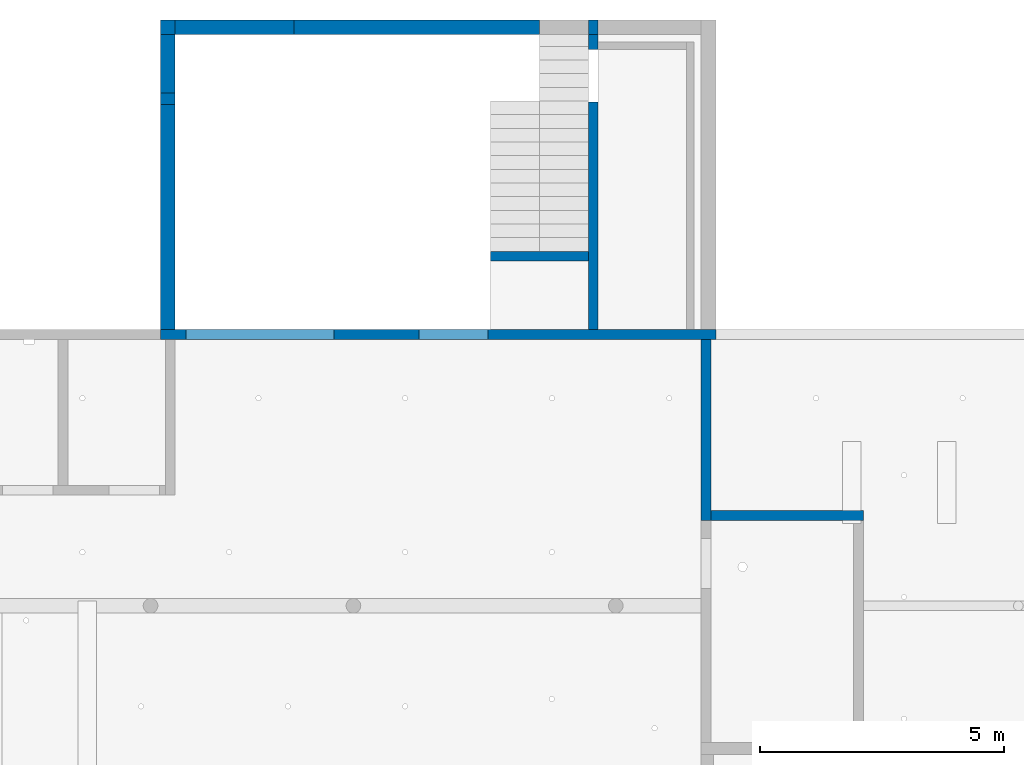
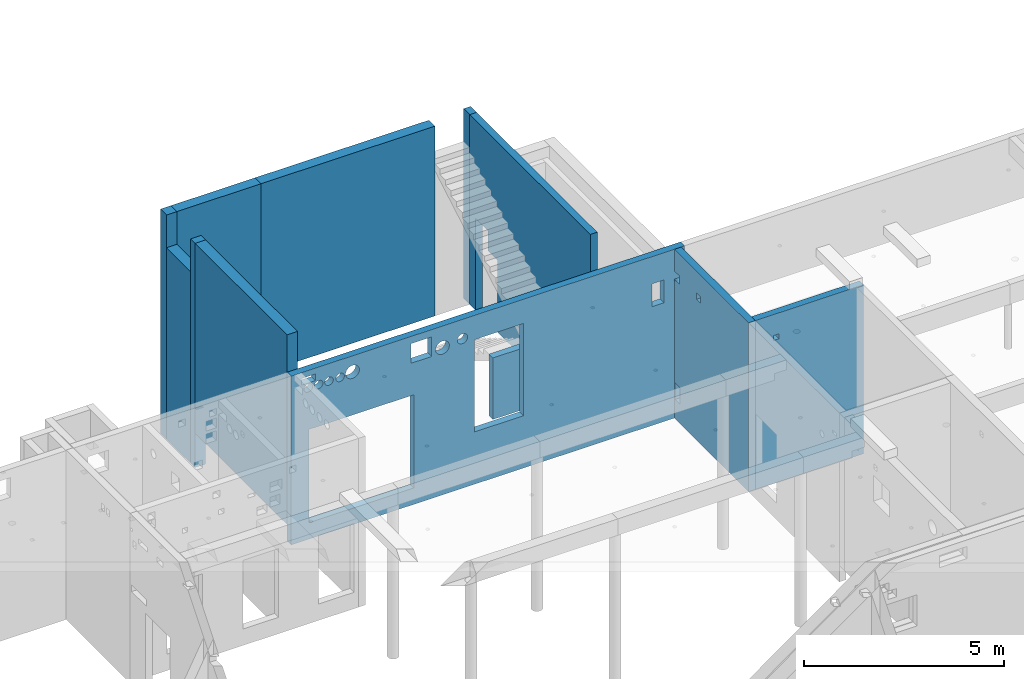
# One storey, part 26 of 28: 10 walls, 19 openings.
"""IFC2X3 building model written with IfcOpenShell, lengths in metres."""

from ifc_helpers import new_model, entity, si_unit, converted_unit, direction, frame, frame_2d, origin, origin_with_axes, place, context, subcontext, project, spatial, polyline, rectangle, outline, extrude, material, layer, layer_set, layer_usage, element, save


model = new_model("IFC2X3")

# Units and contexts
model_context = context("Model", 3, precision=1e-05, world=origin(), true_north=direction((-0.407059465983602, -0.913401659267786)))
body_context = subcontext(model_context, "Body", "Model", "MODEL_VIEW")
ifc_project = project(units=[si_unit("LENGTHUNIT", "METRE"), si_unit("AREAUNIT", "SQUARE_METRE"), si_unit("VOLUMEUNIT", "CUBIC_METRE"), si_unit("MASSUNIT", "GRAM", prefix="KILO"), converted_unit("PLANEANGLEUNIT", "DEGREE", entity("IfcPlaneAngleMeasure", 0.0174532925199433), si_unit("PLANEANGLEUNIT", "RADIAN"), dimensions=[0, 0, 0, 0, 0, 0, 0])], contexts=[model_context])

# Site, buildings, storey
site_placement = place(None, origin())
site = spatial("IfcSite", under=ifc_project, at=site_placement, Name="Site", CompositionType="ELEMENT")
building_1_placement = place(site_placement, origin())
building_1 = spatial("IfcBuilding", under=site, at=building_1_placement, Name="Site", CompositionType="COMPLEX")
building_2_placement = place(building_1_placement, origin())
building_2 = spatial("IfcBuilding", under=building_1, at=building_2_placement, Name="Bâtiments", CompositionType="ELEMENT")
storey_placement = place(building_2_placement, frame((0.0, 0.0, -5.3)))
storey = spatial("IfcBuildingStorey", under=building_2, at=storey_placement, Name="SOUS-SOL", CompositionType="ELEMENT", Elevation=-5.3)

# Wall
ifc_material_1 = material(Name="Béton")
ifc_layer_1 = layer(ifc_material_1, 0.3)
ifc_layer_set_1 = layer_set([ifc_layer_1])
ifc_layer_usage_1 = layer_usage(ifc_layer_set_1, "AXIS2", "POSITIVE", -0.25)
wall_1_placement = place(storey_placement, frame((36.8980907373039, 15.7502841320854, -0.55), z_axis=(0.0, 0.0, 1.0), x_axis=(-1.0, 0.0, 0.0)))
element("IfcWallStandardCase", 1, at=wall_1_placement, inside=storey, material=ifc_layer_usage_1, context=body_context, shape_type="SweptSolid", body=[
    extrude(rectangle(XDim=2.43, YDim=0.3, at=frame_2d((1.215, 0.15), x_axis=(1.0, 0.0))), origin_with_axes(), (0.0, 0.0, 1.0), 6.85),
])

# Wall, openings
ifc_material_2 = material(Name="Béton")
ifc_layer_2 = layer(ifc_material_2, 0.200000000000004)
ifc_layer_set_2 = layer_set([ifc_layer_2])
ifc_layer_usage_2 = layer_usage(ifc_layer_set_2, "AXIS2", "POSITIVE", 0.0)
wall_2_placement = place(storey_placement, frame((45.5426440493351, 9.41038730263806, 0.0), z_axis=(0.0, 0.0, 1.0), x_axis=(-1.0, 0.0, 0.0)))
wall_2 = element("IfcWallStandardCase", 2, at=wall_2_placement, inside=storey, material=ifc_layer_usage_2, context=body_context, shape_type="SweptSolid", body=[
    extrude(rectangle(XDim=11.3745533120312, YDim=0.200000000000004, at=frame_2d((5.68727665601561, 0.100000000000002), x_axis=(1.0, 0.0))), origin_with_axes(), (0.0, 0.0, 1.0), 5.16),
])
opening_1_placement = place(wall_2_placement, frame((0.6, 0.0, 3.63), z_axis=(0.0, 1.0, 0.0), x_axis=(0.0, 0.0, 1.0)))
element("IfcOpeningElement", 3, at=opening_1_placement, cuts=wall_2, Name="EL-001", ObjectType="Opening", context=body_context, shape_type="SweptSolid", body=[
    extrude(outline(polyline([(0.0, 0.35), (0.7, 0.35), (0.7, 0.0), (0.0, 0.0), (0.0, 0.35)])), origin_with_axes(), (0.0, 0.0, 1.0), 0.200000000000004),
])
opening_2_placement = place(wall_2_placement, frame((6.08345777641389, 0.200000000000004, 1.6), z_axis=(0.0, -1.0, 0.0), x_axis=(0.0, 0.0, 1.0)))
element("IfcOpeningElement", 4, at=opening_2_placement, cuts=wall_2, Name="CVC-086", ObjectType="Opening", context=body_context, shape_type="SweptSolid", body=[
    extrude(outline(polyline([(0.0, 1.42), (2.82, 1.42), (2.82, 0.0), (0.0, 0.0), (0.0, 1.42)])), origin_with_axes(), (0.0, 0.0, 1.0), 0.200000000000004),
])
opening_3_placement = place(wall_2_placement, frame((6.27367864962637, 0.0, 4.42), z_axis=(0.0, 1.0, 0.0), x_axis=(0.0, 0.0, 1.0)))
element("IfcOpeningElement", 5, at=opening_3_placement, cuts=wall_2, Name="CVC-085", ObjectType="Opening", context=body_context, shape_type="SweptSolid", body=[
    extrude(outline(polyline([(0.15, 0.3), (0.165679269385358, 0.299178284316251), (0.181186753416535, 0.296722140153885), (0.196352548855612, 0.292658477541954), (0.211010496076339, 0.287031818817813), (0.224999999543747, 0.279903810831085), (0.238167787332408, 0.271352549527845), (0.250369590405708, 0.261471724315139), (0.261471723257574, 0.250369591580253), (0.271352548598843, 0.238167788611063), (0.27990381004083, 0.225000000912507), (0.287031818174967, 0.211010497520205), (0.29265847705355, 0.196352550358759), (0.296722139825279, 0.181186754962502), (0.299178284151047, 0.165679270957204), (0.3, 0.150000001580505), (0.299178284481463, 0.13432073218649), (0.296722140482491, 0.118813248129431), (0.292658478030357, 0.103647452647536), (0.287031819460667, 0.0889895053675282), (0.279903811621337, 0.0750000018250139), (0.27135255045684, 0.0618322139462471), (0.261471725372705, 0.0496304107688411), (0.250369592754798, 0.0385282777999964), (0.238167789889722, 0.0286474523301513), (0.225000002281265, 0.0200961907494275), (0.211010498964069, 0.0129681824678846), (0.196352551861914, 0.00734152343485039), (0.181186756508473, 0.00327786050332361), (0.165679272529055, 0.000821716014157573), (0.149999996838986, 0.0), (0.134320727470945, 0.000821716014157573), (0.118813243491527, 0.00327786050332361), (0.103647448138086, 0.00734152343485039), (0.088989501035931, 0.0129681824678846), (0.0749999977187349, 0.0200961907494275), (0.0618322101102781, 0.0286474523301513), (0.0496304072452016, 0.0385282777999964), (0.0385282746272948, 0.0496304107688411), (0.0286474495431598, 0.0618322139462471), (0.020096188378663, 0.0750000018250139), (0.0129681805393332, 0.0889895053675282), (0.00734152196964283, 0.103647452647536), (0.00327785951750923, 0.118813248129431), (0.000821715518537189, 0.13432073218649), (0.0, 0.150000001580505), (0.00082171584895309, 0.165679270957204), (0.0032778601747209, 0.181186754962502), (0.00734152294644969, 0.196352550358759), (0.0129681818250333, 0.211010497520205), (0.0200961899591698, 0.225000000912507), (0.028647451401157, 0.238167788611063), (0.0385282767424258, 0.250369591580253), (0.0496304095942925, 0.261471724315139), (0.0618322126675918, 0.271352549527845), (0.075000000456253, 0.279903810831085), (0.0889895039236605, 0.287031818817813), (0.103647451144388, 0.292658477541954), (0.118813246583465, 0.296722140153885), (0.134320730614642, 0.299178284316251), (0.15, 0.3)])), origin_with_axes(), (0.0, 0.0, 1.0), 0.200000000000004),
])
opening_4_placement = place(wall_2_placement, frame((6.80267346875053, 0.0, 4.3), z_axis=(0.0, 1.0, 0.0), x_axis=(0.0, 0.0, 1.0)))
element("IfcOpeningElement", 6, at=opening_4_placement, cuts=wall_2, Name="CVC-084", ObjectType="Opening", context=body_context, shape_type="SweptSolid", body=[
    extrude(outline(polyline([(0.199999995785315, 0.4), (0.220905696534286, 0.398904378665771), (0.241582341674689, 0.395629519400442), (0.261803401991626, 0.390211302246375), (0.28134733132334, 0.382709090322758), (0.300000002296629, 0.373205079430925), (0.317557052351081, 0.361803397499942), (0.333826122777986, 0.348628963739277), (0.348628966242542, 0.33382611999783), (0.361803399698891, 0.317557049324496), (0.373205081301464, 0.299999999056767), (0.382709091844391, 0.2813473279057), (0.390211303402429, 0.261803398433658), (0.395629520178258, 0.241582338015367), (0.398904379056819, 0.220905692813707), (0.4, 0.200000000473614), (0.398904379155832, 0.179094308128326), (0.395629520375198, 0.158417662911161), (0.390211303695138, 0.138196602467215), (0.382709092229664, 0.118652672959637), (0.373205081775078, 0.100000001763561), (0.361803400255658, 0.0824429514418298), (0.348628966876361, 0.0661738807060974), (0.333826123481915, 0.0513710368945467), (0.317557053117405, 0.0381966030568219), (0.300000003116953, 0.0267949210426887), (0.281347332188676, 0.0172909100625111), (0.261803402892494, 0.00978869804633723), (0.241582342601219, 0.00437048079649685), (0.220905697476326, 0.00109562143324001), (0.199999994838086, 0.0), (0.179094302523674, 0.00109562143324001), (0.158417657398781, 0.00437048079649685), (0.138196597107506, 0.00978869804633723), (0.118652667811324, 0.0172909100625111), (0.0999999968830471, 0.0267949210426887), (0.082442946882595, 0.0381966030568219), (0.0661738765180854, 0.0513710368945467), (0.0513710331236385, 0.0661738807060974), (0.0381965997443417, 0.0824429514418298), (0.026794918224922, 0.100000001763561), (0.0172909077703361, 0.118652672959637), (0.00978869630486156, 0.138196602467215), (0.00437047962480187, 0.158417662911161), (0.00109562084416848, 0.179094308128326), (0.0, 0.200000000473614), (0.00109562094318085, 0.220905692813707), (0.00437047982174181, 0.241582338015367), (0.00978869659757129, 0.261803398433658), (0.0172909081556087, 0.2813473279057), (0.0267949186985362, 0.299999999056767), (0.0381966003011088, 0.317557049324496), (0.0513710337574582, 0.33382611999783), (0.0661738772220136, 0.348628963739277), (0.0824429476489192, 0.361803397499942), (0.0999999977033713, 0.373205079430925), (0.11865266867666, 0.382709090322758), (0.138196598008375, 0.390211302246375), (0.158417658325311, 0.395629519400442), (0.179094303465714, 0.398904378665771), (0.199999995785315, 0.4)])), origin_with_axes(), (0.0, 0.0, 1.0), 0.200000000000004),
])
opening_5_placement = place(wall_2_placement, frame((7.82645581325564, 0.0, 0.5), z_axis=(0.0, 1.0, 0.0), x_axis=(0.0, 0.0, 1.0)))
element("IfcOpeningElement", 7, at=opening_5_placement, cuts=wall_2, Name="Baie de porte", ObjectType="Opening", context=body_context, shape_type="SweptSolid", body=[
    extrude(outline(polyline([(0.0, 3.03), (2.85, 3.03), (2.85, 0.0), (0.0, 0.0), (0.0, 3.03)])), origin_with_axes(), (0.0, 0.0, 1.0), 0.200000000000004),
])
opening_6_placement = place(wall_2_placement, frame((9.83630807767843, 3.63797880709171e-15, 4.5), z_axis=(0.0, 1.0, 0.0), x_axis=(0.0, 0.0, 1.0)))
element("IfcOpeningElement", 8, at=opening_6_placement, cuts=wall_2, Name="CVC-081", ObjectType="Opening", context=body_context, shape_type="SweptSolid", body=[
    extrude(outline(polyline([(0.124999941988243, 0.25), (0.138066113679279, 0.249315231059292), (0.150989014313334, 0.247268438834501), (0.163627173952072, 0.243882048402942), (0.175842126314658, 0.239193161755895), (0.187500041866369, 0.233253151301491), (0.198473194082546, 0.226127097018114), (0.208641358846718, 0.217893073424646), (0.217893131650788, 0.20864129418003), (0.226127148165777, 0.19847312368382), (0.233253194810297, 0.187499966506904), (0.239193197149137, 0.175842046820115), (0.243882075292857, 0.163627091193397), (0.247268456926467, 0.150988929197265), (0.249315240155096, 0.138066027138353), (0.249999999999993, 0.124999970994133), (0.249315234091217, 0.111933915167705), (0.247268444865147, 0.0990110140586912), (0.243882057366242, 0.0863728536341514), (0.239193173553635, 0.0741579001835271), (0.233253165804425, 0.0624999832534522), (0.226127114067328, 0.0515268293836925), (0.217893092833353, 0.0413586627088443), (0.208641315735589, 0.0321068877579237), (0.198473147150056, 0.0238728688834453), (0.187499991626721, 0.0167468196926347), (0.175842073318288, 0.0108068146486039), (0.163627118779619, 0.00611793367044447), (0.150988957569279, 0.00273154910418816), (0.138066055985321, 0.00068476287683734), (0.124999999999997, 0.0), (0.111933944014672, 0.00068476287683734), (0.0990110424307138, 0.00273154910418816), (0.0863728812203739, 0.00611793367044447), (0.0741579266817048, 0.0108068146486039), (0.0625000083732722, 0.0167468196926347), (0.0515268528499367, 0.0238728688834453), (0.0413586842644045, 0.0321068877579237), (0.0321069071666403, 0.0413586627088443), (0.0238728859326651, 0.0515268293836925), (0.0167468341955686, 0.0624999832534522), (0.0108068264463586, 0.0741579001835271), (0.00611794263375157, 0.0863728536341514), (0.00273155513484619, 0.0990110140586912), (0.00068476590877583, 0.111933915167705), (0.0, 0.124999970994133), (0.000684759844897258, 0.138066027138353), (0.00273154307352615, 0.150988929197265), (0.00611792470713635, 0.163627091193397), (0.010806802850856, 0.175842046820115), (0.0167468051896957, 0.187499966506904), (0.0238728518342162, 0.19847312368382), (0.0321068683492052, 0.20864129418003), (0.0413586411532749, 0.217893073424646), (0.0515268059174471, 0.226127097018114), (0.0624999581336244, 0.233253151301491), (0.074157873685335, 0.239193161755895), (0.0863728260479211, 0.243882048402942), (0.0990109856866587, 0.247268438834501), (0.111933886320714, 0.249315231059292), (0.124999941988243, 0.25)])), origin_with_axes(), (0.0, 0.0, 1.0), 0.2),
])
opening_7_placement = place(wall_2_placement, frame((10.1563080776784, 3.63797880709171e-15, 4.5), z_axis=(0.0, 1.0, 0.0), x_axis=(0.0, 0.0, 1.0)))
element("IfcOpeningElement", 9, at=opening_7_placement, cuts=wall_2, Name="CVC-080", ObjectType="Opening", context=body_context, shape_type="SweptSolid", body=[
    extrude(outline(polyline([(0.124999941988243, 0.25), (0.138066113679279, 0.249315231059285), (0.150989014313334, 0.247268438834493), (0.163627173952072, 0.243882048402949), (0.175842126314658, 0.239193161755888), (0.187500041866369, 0.233253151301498), (0.198473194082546, 0.226127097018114), (0.208641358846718, 0.217893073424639), (0.217893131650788, 0.20864129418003), (0.226127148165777, 0.19847312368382), (0.233253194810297, 0.187499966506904), (0.239193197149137, 0.175842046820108), (0.243882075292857, 0.163627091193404), (0.247268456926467, 0.150988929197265), (0.249315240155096, 0.138066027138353), (0.249999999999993, 0.124999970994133), (0.249315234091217, 0.111933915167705), (0.247268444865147, 0.0990110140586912), (0.243882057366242, 0.0863728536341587), (0.239193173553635, 0.0741579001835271), (0.233253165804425, 0.0624999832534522), (0.226127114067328, 0.0515268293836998), (0.217893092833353, 0.0413586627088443), (0.208641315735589, 0.0321068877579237), (0.198473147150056, 0.0238728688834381), (0.187499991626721, 0.0167468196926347), (0.175842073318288, 0.0108068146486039), (0.163627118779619, 0.00611793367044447), (0.150988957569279, 0.00273154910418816), (0.138066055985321, 0.000684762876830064), (0.124999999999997, 0.0), (0.111933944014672, 0.000684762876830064), (0.0990110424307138, 0.00273154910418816), (0.0863728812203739, 0.00611793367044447), (0.0741579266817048, 0.0108068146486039), (0.0625000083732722, 0.0167468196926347), (0.0515268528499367, 0.0238728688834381), (0.0413586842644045, 0.0321068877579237), (0.0321069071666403, 0.0413586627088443), (0.0238728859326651, 0.0515268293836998), (0.0167468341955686, 0.0624999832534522), (0.0108068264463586, 0.0741579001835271), (0.00611794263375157, 0.0863728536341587), (0.00273155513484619, 0.0990110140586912), (0.00068476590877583, 0.111933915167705), (0.0, 0.124999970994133), (0.000684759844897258, 0.138066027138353), (0.00273154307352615, 0.150988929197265), (0.00611792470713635, 0.163627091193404), (0.010806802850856, 0.175842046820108), (0.0167468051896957, 0.187499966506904), (0.0238728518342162, 0.19847312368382), (0.0321068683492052, 0.20864129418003), (0.0413586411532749, 0.217893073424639), (0.0515268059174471, 0.226127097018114), (0.0624999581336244, 0.233253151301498), (0.074157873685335, 0.239193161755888), (0.0863728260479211, 0.243882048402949), (0.0990109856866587, 0.247268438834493), (0.111933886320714, 0.249315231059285), (0.124999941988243, 0.25)])), origin_with_axes(), (0.0, 0.0, 1.0), 0.2),
])
opening_8_placement = place(wall_2_placement, frame((7.91345777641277, 0.200001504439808, 4.34), z_axis=(0.0, -1.0, 0.0), x_axis=(0.0, 0.0, 1.0)))
element("IfcOpeningElement", 10, at=opening_8_placement, cuts=wall_2, Name="CVC-083", ObjectType="Opening", context=body_context, shape_type="SweptSolid", body=[
    extrude(outline(polyline([(0.0, 0.6), (0.6, 0.6), (0.6, 0.0), (0.0, 0.0), (0.0, 0.6)])), origin_with_axes(), (0.0, 0.0, 1.0), 0.200000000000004),
])
opening_9_placement = place(wall_2_placement, frame((9.40122932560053, 0.0, 4.47), z_axis=(0.0, 1.0, 0.0), x_axis=(0.0, 0.0, 1.0)))
element("IfcOpeningElement", 11, at=opening_9_placement, cuts=wall_2, Name="CVC-082", ObjectType="Opening", context=body_context, shape_type="SweptSolid", body=[
    extrude(outline(polyline([(0.199999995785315, 0.4), (0.220905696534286, 0.398904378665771), (0.241582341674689, 0.395629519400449), (0.261803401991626, 0.390211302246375), (0.28134733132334, 0.382709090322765), (0.300000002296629, 0.373205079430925), (0.317557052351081, 0.361803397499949), (0.333826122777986, 0.348628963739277), (0.348628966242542, 0.33382611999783), (0.361803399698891, 0.317557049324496), (0.373205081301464, 0.299999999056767), (0.382709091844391, 0.2813473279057), (0.390211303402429, 0.261803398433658), (0.395629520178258, 0.241582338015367), (0.398904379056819, 0.220905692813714), (0.4, 0.200000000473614), (0.398904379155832, 0.179094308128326), (0.395629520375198, 0.158417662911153), (0.390211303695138, 0.138196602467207), (0.382709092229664, 0.118652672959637), (0.373205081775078, 0.100000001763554), (0.361803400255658, 0.0824429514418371), (0.348628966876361, 0.0661738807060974), (0.333826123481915, 0.0513710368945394), (0.317557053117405, 0.0381966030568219), (0.300000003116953, 0.0267949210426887), (0.281347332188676, 0.0172909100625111), (0.261803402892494, 0.00978869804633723), (0.241582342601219, 0.00437048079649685), (0.220905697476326, 0.00109562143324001), (0.199999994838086, 0.0), (0.179094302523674, 0.00109562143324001), (0.158417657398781, 0.00437048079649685), (0.138196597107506, 0.00978869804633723), (0.118652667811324, 0.0172909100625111), (0.0999999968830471, 0.0267949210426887), (0.082442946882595, 0.0381966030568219), (0.0661738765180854, 0.0513710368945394), (0.0513710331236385, 0.0661738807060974), (0.0381965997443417, 0.0824429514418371), (0.026794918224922, 0.100000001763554), (0.0172909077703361, 0.118652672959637), (0.00978869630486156, 0.138196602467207), (0.00437047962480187, 0.158417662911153), (0.00109562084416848, 0.179094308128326), (0.0, 0.200000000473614), (0.00109562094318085, 0.220905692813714), (0.00437047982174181, 0.241582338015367), (0.00978869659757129, 0.261803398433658), (0.0172909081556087, 0.2813473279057), (0.0267949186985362, 0.299999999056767), (0.0381966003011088, 0.317557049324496), (0.0513710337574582, 0.33382611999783), (0.0661738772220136, 0.348628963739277), (0.0824429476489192, 0.361803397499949), (0.0999999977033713, 0.373205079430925), (0.11865266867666, 0.382709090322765), (0.138196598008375, 0.390211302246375), (0.158417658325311, 0.395629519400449), (0.179094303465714, 0.398904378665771), (0.199999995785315, 0.4)])), origin_with_axes(), (0.0, 0.0, 1.0), 0.200000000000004),
])
opening_10_placement = place(wall_2_placement, frame((10.6745533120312, 3.63797880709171e-15, 4.78), z_axis=(0.0, 1.0, 0.0), x_axis=(0.0, 0.0, 1.0)))
element("IfcOpeningElement", 12, at=opening_10_placement, cuts=wall_2, Name="TE-027", ObjectType="Opening", context=body_context, shape_type="SweptSolid", body=[
    extrude(outline(polyline([(0.0, 0.4), (0.2, 0.4), (0.2, 0.0), (0.0, 0.0), (0.0, 0.4)])), origin_with_axes(), (0.0, 0.0, 1.0), 0.2),
])
opening_11_placement = place(wall_2_placement, frame((10.756297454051, 3.63797880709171e-15, 4.5), z_axis=(0.0, 1.0, 0.0), x_axis=(0.0, 0.0, 1.0)))
element("IfcOpeningElement", 13, at=opening_11_placement, cuts=wall_2, Name="CVC-078", ObjectType="Opening", context=body_context, shape_type="SweptSolid", body=[
    extrude(outline(polyline([(0.124999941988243, 0.25), (0.138066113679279, 0.249315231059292), (0.150989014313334, 0.247268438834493), (0.163627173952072, 0.243882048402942), (0.175842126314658, 0.239193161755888), (0.187500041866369, 0.233253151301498), (0.198473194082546, 0.226127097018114), (0.208641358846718, 0.217893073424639), (0.217893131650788, 0.20864129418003), (0.226127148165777, 0.19847312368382), (0.233253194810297, 0.187499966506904), (0.239193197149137, 0.175842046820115), (0.243882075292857, 0.163627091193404), (0.247268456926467, 0.150988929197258), (0.249315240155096, 0.138066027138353), (0.249999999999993, 0.124999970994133), (0.249315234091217, 0.111933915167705), (0.247268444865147, 0.0990110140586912), (0.243882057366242, 0.0863728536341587), (0.239193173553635, 0.0741579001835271), (0.233253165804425, 0.0624999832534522), (0.226127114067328, 0.0515268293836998), (0.217893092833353, 0.0413586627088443), (0.208641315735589, 0.0321068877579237), (0.198473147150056, 0.0238728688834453), (0.187499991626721, 0.0167468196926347), (0.175842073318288, 0.0108068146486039), (0.163627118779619, 0.00611793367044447), (0.150988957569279, 0.00273154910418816), (0.138066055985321, 0.00068476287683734), (0.124999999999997, 0.0), (0.111933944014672, 0.00068476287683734), (0.0990110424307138, 0.00273154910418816), (0.0863728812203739, 0.00611793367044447), (0.0741579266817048, 0.0108068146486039), (0.0625000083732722, 0.0167468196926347), (0.0515268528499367, 0.0238728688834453), (0.0413586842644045, 0.0321068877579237), (0.0321069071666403, 0.0413586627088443), (0.0238728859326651, 0.0515268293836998), (0.0167468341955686, 0.0624999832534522), (0.0108068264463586, 0.0741579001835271), (0.00611794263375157, 0.0863728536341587), (0.00273155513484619, 0.0990110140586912), (0.00068476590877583, 0.111933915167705), (0.0, 0.124999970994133), (0.000684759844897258, 0.138066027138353), (0.00273154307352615, 0.150988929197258), (0.00611792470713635, 0.163627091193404), (0.010806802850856, 0.175842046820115), (0.0167468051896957, 0.187499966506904), (0.0238728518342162, 0.19847312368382), (0.0321068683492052, 0.20864129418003), (0.0413586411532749, 0.217893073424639), (0.0515268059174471, 0.226127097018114), (0.0624999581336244, 0.233253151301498), (0.074157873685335, 0.239193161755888), (0.0863728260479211, 0.243882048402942), (0.0990109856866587, 0.247268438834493), (0.111933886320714, 0.249315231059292), (0.124999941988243, 0.25)])), origin_with_axes(), (0.0, 0.0, 1.0), 0.2),
])
opening_12_placement = place(wall_2_placement, frame((10.4562684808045, 3.63797880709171e-15, 4.5), z_axis=(0.0, 1.0, 0.0), x_axis=(0.0, 0.0, 1.0)))
element("IfcOpeningElement", 14, at=opening_12_placement, cuts=wall_2, Name="CVC-079", ObjectType="Opening", context=body_context, shape_type="SweptSolid", body=[
    extrude(outline(polyline([(0.124999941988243, 0.25), (0.138066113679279, 0.249315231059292), (0.150989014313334, 0.247268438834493), (0.163627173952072, 0.243882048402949), (0.175842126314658, 0.239193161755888), (0.187500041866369, 0.233253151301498), (0.198473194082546, 0.226127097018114), (0.208641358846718, 0.217893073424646), (0.217893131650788, 0.20864129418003), (0.226127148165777, 0.19847312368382), (0.233253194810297, 0.187499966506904), (0.239193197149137, 0.175842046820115), (0.243882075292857, 0.163627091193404), (0.247268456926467, 0.150988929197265), (0.249315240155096, 0.138066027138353), (0.249999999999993, 0.124999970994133), (0.249315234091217, 0.111933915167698), (0.247268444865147, 0.0990110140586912), (0.243882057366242, 0.0863728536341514), (0.239193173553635, 0.0741579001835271), (0.233253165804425, 0.0624999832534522), (0.226127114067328, 0.0515268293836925), (0.217893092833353, 0.0413586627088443), (0.208641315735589, 0.0321068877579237), (0.198473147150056, 0.0238728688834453), (0.187499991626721, 0.0167468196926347), (0.175842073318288, 0.0108068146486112), (0.163627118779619, 0.00611793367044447), (0.150988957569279, 0.00273154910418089), (0.138066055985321, 0.00068476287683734), (0.124999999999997, 0.0), (0.111933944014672, 0.00068476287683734), (0.0990110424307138, 0.00273154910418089), (0.0863728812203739, 0.00611793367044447), (0.0741579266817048, 0.0108068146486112), (0.0625000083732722, 0.0167468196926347), (0.0515268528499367, 0.0238728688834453), (0.0413586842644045, 0.0321068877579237), (0.0321069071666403, 0.0413586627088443), (0.0238728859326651, 0.0515268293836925), (0.0167468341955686, 0.0624999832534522), (0.0108068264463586, 0.0741579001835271), (0.00611794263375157, 0.0863728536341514), (0.00273155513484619, 0.0990110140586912), (0.00068476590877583, 0.111933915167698), (0.0, 0.124999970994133), (0.000684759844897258, 0.138066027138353), (0.00273154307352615, 0.150988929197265), (0.00611792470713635, 0.163627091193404), (0.010806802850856, 0.175842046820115), (0.0167468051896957, 0.187499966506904), (0.0238728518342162, 0.19847312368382), (0.0321068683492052, 0.20864129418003), (0.0413586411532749, 0.217893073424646), (0.0515268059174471, 0.226127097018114), (0.0624999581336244, 0.233253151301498), (0.074157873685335, 0.239193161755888), (0.0863728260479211, 0.243882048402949), (0.0990109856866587, 0.247268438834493), (0.111933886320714, 0.249315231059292), (0.124999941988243, 0.25)])), origin_with_axes(), (0.0, 0.0, 1.0), 0.2),
])

# Wall
ifc_material_3 = material(Name="Béton")
ifc_layer_3 = layer(ifc_material_3, 0.3)
ifc_layer_set_3 = layer_set([ifc_layer_3])
ifc_layer_usage_3 = layer_usage(ifc_layer_set_3, "AXIS2", "POSITIVE", 0.0)
wall_3_placement = place(storey_placement, frame((34.4680907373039, 9.41038730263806, 0.5), z_axis=(0.0, 0.0, 1.0), x_axis=(0.0, 1.0, 0.0)))
element("IfcWallStandardCase", 15, at=wall_3_placement, inside=storey, material=ifc_layer_usage_3, context=body_context, shape_type="SweptSolid", body=[
    extrude(rectangle(XDim=4.60989682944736, YDim=0.3, at=frame_2d((2.30494841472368, 0.15), x_axis=(1.0, 0.0))), origin_with_axes(), (0.0, 0.0, 1.0), 5.8),
])

# Wall, openings
ifc_material_4 = material(Name="Béton")
ifc_layer_4 = layer(ifc_material_4, 0.2)
ifc_layer_set_4 = layer_set([ifc_layer_4])
ifc_layer_usage_4 = layer_usage(ifc_layer_set_4, "AXIS2", "POSITIVE", 0.0)
wall_4_placement = place(storey_placement, frame((43.1296416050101, 9.41038730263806, 0.5), z_axis=(0.0, 0.0, 1.0), x_axis=(-1.20464932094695e-15, 1.0, 0.0)))
wall_4 = element("IfcWallStandardCase", 16, at=wall_4_placement, inside=storey, material=ifc_layer_usage_4, context=body_context, shape_type="SweptSolid", body=[
    extrude(rectangle(XDim=6.03989682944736, YDim=0.2, at=frame_2d((3.01994841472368, 0.1), x_axis=(1.0, 0.0))), origin_with_axes(), (0.0, 0.0, 1.0), 5.8),
])
opening_13_placement = place(wall_4_placement, frame((5.73989682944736, 0.2, 0.0), z_axis=(0.0, -1.0, 0.0), x_axis=(0.0, 0.0, 1.0)))
element("IfcOpeningElement", 17, at=opening_13_placement, cuts=wall_4, Name="Baie de porte", ObjectType="Opening", context=body_context, shape_type="SweptSolid", body=[
    extrude(outline(polyline([(0.0, 1.08), (2.2, 1.08), (2.2, 0.0), (0.0, 0.0), (0.0, 1.08)])), origin_with_axes(), (0.0, 0.0, 1.0), 0.2),
])
opening_14_placement = place(wall_4_placement, frame((5.73989682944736, 0.2, 2.19), z_axis=(0.0, -1.0, 0.0), x_axis=(0.0, 0.0, 1.0)))
element("IfcOpeningElement", 18, at=opening_14_placement, cuts=wall_4, Name="CVC-060", ObjectType="Opening", context=body_context, shape_type="SweptSolid", body=[
    extrude(outline(polyline([(0.0, 0.62), (0.62, 0.62), (0.62, 0.0), (0.0, 0.0), (0.0, 0.62)])), origin_with_axes(), (0.0, 0.0, 1.0), 0.2),
])
opening_15_placement = place(wall_4_placement, frame((1.24711271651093, 0.199999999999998, 0.29), z_axis=(-1.13686837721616e-15, -1.0, 0.0), x_axis=(0.0, 0.0, 1.0)))
element("IfcOpeningElement", 19, at=opening_15_placement, cuts=wall_4, Name="CVC-059", ObjectType="Opening", context=body_context, shape_type="SweptSolid", body=[
    extrude(outline(polyline([(0.0, 0.62), (0.62, 0.62), (0.62, 0.0), (0.0, 0.0), (0.0, 0.62)])), origin_with_axes(), (0.0, 0.0, 1.0), 0.2),
])

ifc_material_5 = material(Name="Béton")
ifc_layer_5 = layer(ifc_material_5, 0.2)
ifc_layer_set_5 = layer_set([ifc_layer_5])
ifc_layer_usage_5 = layer_usage(ifc_layer_set_5, "AXIS2", "POSITIVE", 0.0)
wall_5_placement = place(storey_placement, frame((45.4426440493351, 5.4984652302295, 0.0), z_axis=(0.0, 0.0, 1.0), x_axis=(0.0, 1.0, 0.0)))
wall_5 = element("IfcWallStandardCase", 20, at=wall_5_placement, inside=storey, material=ifc_layer_usage_5, context=body_context, shape_type="SweptSolid", body=[
    extrude(rectangle(XDim=3.71192207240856, YDim=0.2, at=frame_2d((1.85596103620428, 0.1), x_axis=(1.0, 0.0))), origin_with_axes(), (0.0, 0.0, 1.0), 5.16),
])
opening_16_placement = place(wall_5_placement, frame((3.71192207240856, 0.2, 4.25), z_axis=(0.0, -1.0, 0.0), x_axis=(0.0, 0.0, 1.0)))
element("IfcOpeningElement", 21, at=opening_16_placement, cuts=wall_5, Name="PB-013", ObjectType="Opening", context=body_context, shape_type="SweptSolid", body=[
    extrude(outline(polyline([(0.0, 0.25), (0.25, 0.25), (0.25, 0.0), (0.0, 0.0), (0.0, 0.25)])), origin_with_axes(), (0.0, 0.0, 1.0), 0.2),
])
opening_17_placement = place(wall_5_placement, frame((3.67219405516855, 0.2, 0.6), z_axis=(0.0, -1.0, 0.0), x_axis=(0.0, 0.0, 1.0)))
element("IfcOpeningElement", 22, at=opening_17_placement, cuts=wall_5, Name="PB-126", ObjectType="Opening", context=body_context, shape_type="SweptSolid", body=[
    extrude(outline(polyline([(0.0, 0.25), (0.5, 0.25), (0.5, 0.0), (0.0, 0.0), (0.0, 0.25)])), origin_with_axes(), (0.0, 0.0, 1.0), 0.200000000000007),
])
opening_18_placement = place(wall_5_placement, frame((2.60902523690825, 0.200380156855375, 4.3), z_axis=(0.0, -1.0, 0.0), x_axis=(0.0, 0.0, 1.0)))
element("IfcOpeningElement", 23, at=opening_18_placement, cuts=wall_5, Name="PB-022", ObjectType="Opening", context=body_context, shape_type="SweptSolid", body=[
    extrude(outline(polyline([(0.0, 0.2), (0.2, 0.2), (0.2, 0.0), (0.0, 0.0), (0.0, 0.2)])), origin_with_axes(), (0.0, 0.0, 1.0), 0.2),
])

# Wall, opening
ifc_material_6 = material(Name="Béton")
ifc_layer_6 = layer(ifc_material_6, 0.199999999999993)
ifc_layer_set_6 = layer_set([ifc_layer_6])
ifc_layer_usage_6 = layer_usage(ifc_layer_set_6, "AXIS2", "POSITIVE", -0.0999999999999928)
wall_6_placement = place(storey_placement, frame((45.4426440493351, 5.4984652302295, 0.0), z_axis=(0.0, 0.0, 1.0), x_axis=(1.0, -5.82626061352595e-16, 0.0)))
wall_6 = element("IfcWallStandardCase", 24, at=wall_6_placement, inside=storey, material=ifc_layer_usage_6, context=body_context, shape_type="SweptSolid", body=[
    extrude(rectangle(XDim=3.12205293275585, YDim=0.199999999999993, at=frame_2d((1.56102646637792, 0.0999999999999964), x_axis=(1.0, 0.0))), origin_with_axes(), (0.0, 0.0, 1.0), 5.16),
])
opening_19_placement = place(wall_6_placement, frame((0.678491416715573, 0.199999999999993, 4.37), z_axis=(5.68434188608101e-16, -1.0, 0.0), x_axis=(0.0, 0.0, 1.0)))
element("IfcOpeningElement", 25, at=opening_19_placement, cuts=wall_6, Name="PB-037", ObjectType="Opening", context=body_context, shape_type="SweptSolid", body=[
    extrude(outline(polyline([(0.0, 0.15), (0.15, 0.15), (0.15, 0.0), (0.0, 0.0), (0.0, 0.15)])), origin_with_axes(), (0.0, 0.0, 1.0), 0.199999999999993),
])

# Walls
ifc_material_7 = material(Name="Béton")
wall_7_placement = place(storey_placement, frame((34.4680907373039, 14.0202841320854, -0.55), z_axis=(0.0, 0.0, 1.0), x_axis=(0.0, 1.0, 0.0)))
element("IfcWall", 26, at=wall_7_placement, inside=storey, material=ifc_material_7, context=body_context, shape_type="SweptSolid", body=[
    extrude(rectangle(XDim=0.3, YDim=0.3, at=frame_2d((0.15, 0.15), x_axis=(1.0, 0.0))), frame((1.43, 0.0, 0.0), z_axis=(0.0, 0.0, 1.0), x_axis=(1.0, 0.0, 0.0)), (0.0, 0.0, 1.0), 6.85),
    extrude(rectangle(XDim=0.23, YDim=0.3, at=frame_2d((-0.115, -0.15), x_axis=(-1.0, 0.0))), frame((0.23, 0.3, 0.0), z_axis=(0.0, 0.0, 1.0), x_axis=(1.0, 0.0, 0.0)), (0.0, 0.0, 1.0), 6.85),
])
ifc_material_8 = material(Name="Béton")
ifc_layer_7 = layer(ifc_material_8, 0.3)
ifc_layer_set_7 = layer_set([ifc_layer_7])
ifc_layer_usage_7 = layer_usage(ifc_layer_set_7, "AXIS2", "POSITIVE", 0.0)
wall_8_placement = place(storey_placement, frame((34.4680907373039, 14.2502841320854, -0.55), z_axis=(0.0, 0.0, 1.0), x_axis=(0.0, 1.0, 0.0)))
element("IfcWallStandardCase", 27, at=wall_8_placement, inside=storey, material=ifc_layer_usage_7, context=body_context, shape_type="SweptSolid", body=[
    extrude(rectangle(XDim=1.2, YDim=0.3, at=frame_2d((0.6, 0.15), x_axis=(1.0, 0.0))), origin_with_axes(), (0.0, 0.0, 1.0), 5.85),
])
ifc_material_9 = material(Name="Béton")
wall_9_placement = place(storey_placement, frame((43.1296416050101, 15.7502841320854, 0.5), z_axis=(0.0, 0.0, 1.0), x_axis=(-1.0, 0.0, 0.0)))
element("IfcWall", 28, at=wall_9_placement, inside=storey, material=ifc_material_9, context=body_context, shape_type="SweptSolid", body=[
    extrude(rectangle(XDim=5.0315508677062, YDim=0.3, at=frame_2d((2.5157754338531, 0.15), x_axis=(1.0, 0.0))), frame((1.2, 0.0, 0.0), z_axis=(0.0, 0.0, 1.0), x_axis=(1.0, 0.0, 0.0)), (0.0, 0.0, 1.0), 5.8),
    extrude(rectangle(XDim=0.2, YDim=0.3, at=frame_2d((-0.1, -0.15), x_axis=(-1.0, 0.0))), frame((0.2, 0.3, 0.0), z_axis=(0.0, 0.0, 1.0), x_axis=(1.0, 0.0, 0.0)), (0.0, 0.0, 1.0), 5.8),
])
ifc_material_10 = material(Name="Béton")
ifc_layer_8 = layer(ifc_material_10, 0.2)
ifc_layer_set_8 = layer_set([ifc_layer_8])
ifc_layer_usage_8 = layer_usage(ifc_layer_set_8, "AXIS2", "POSITIVE", 0.0)
wall_10_placement = place(storey_placement, frame((42.9296416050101, 11.0104510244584, 0.5), z_axis=(0.0, 0.0, 1.0), x_axis=(-1.0, -9.0598274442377e-16, 0.0)))
element("IfcWallStandardCase", 29, at=wall_10_placement, inside=storey, material=ifc_layer_usage_8, context=body_context, shape_type="SweptSolid", body=[
    extrude(rectangle(XDim=2.00775281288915, YDim=0.2, at=frame_2d((1.00387640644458, 0.1), x_axis=(1.0, 0.0))), origin_with_axes(), (0.0, 0.0, 1.0), 1.88),
])

save(model, "model.ifc")
